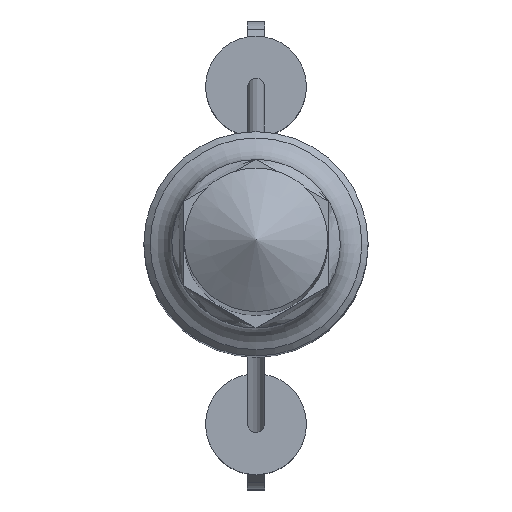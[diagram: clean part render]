
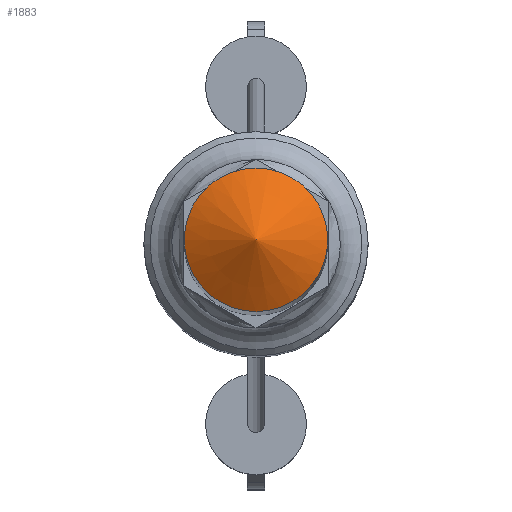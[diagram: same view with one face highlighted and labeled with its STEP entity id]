
A CAD part, top view. The second image highlights one B-rep face of the part: STEP entity #1883.
In plain terms, the highlighted conical face has half-angle 60 degrees and reference radius 3.2 mm.
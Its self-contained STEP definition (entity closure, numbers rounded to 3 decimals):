
#36 = AXIS2_PLACEMENT_3D ( 'NONE', #792, #964, #468 ) ;
#160 = CARTESIAN_POINT ( 'NONE',  ( 3.2, 0., 98.152 ) ) ;
#468 = DIRECTION ( 'NONE',  ( -1., 0., 0. ) ) ;
#555 = ORIENTED_EDGE ( 'NONE', *, *, #1076, .T. ) ;
#792 = CARTESIAN_POINT ( 'NONE',  ( 0., 0., 98.152 ) ) ;
#807 = EDGE_LOOP ( 'NONE', ( #555 ) ) ;
#850 = CIRCLE ( 'NONE', #1399, 3.2 ) ;
#964 = DIRECTION ( 'NONE',  ( 0., 0., -1. ) ) ;
#1059 = CONICAL_SURFACE ( 'NONE', #36, 3.2, 1.047 ) ;
#1076 = EDGE_CURVE ( 'NONE', #2126, #2126, #850, .T. ) ;
#1128 = FACE_OUTER_BOUND ( 'NONE', #807, .T. ) ;
#1399 = AXIS2_PLACEMENT_3D ( 'NONE', #1680, #2015, #1494 ) ;
#1494 = DIRECTION ( 'NONE',  ( 1., 0., 0. ) ) ;
#1680 = CARTESIAN_POINT ( 'NONE',  ( 0., 0., 98.152 ) ) ;
#1883 = ADVANCED_FACE ( 'NONE', ( #1128 ), #1059, .T. ) ;
#2015 = DIRECTION ( 'NONE',  ( 0., 0., 1. ) ) ;
#2126 = VERTEX_POINT ( 'NONE', #160 ) ;
